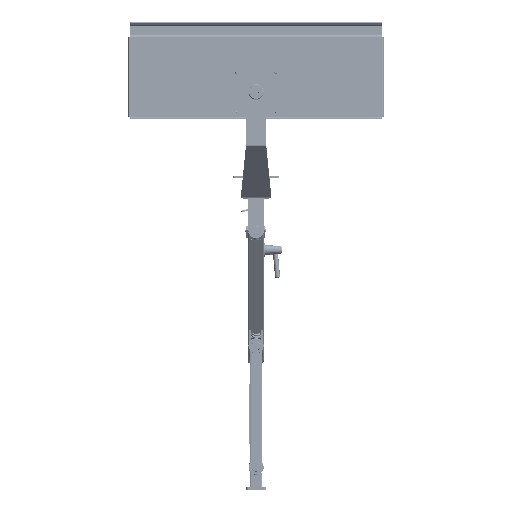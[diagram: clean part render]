
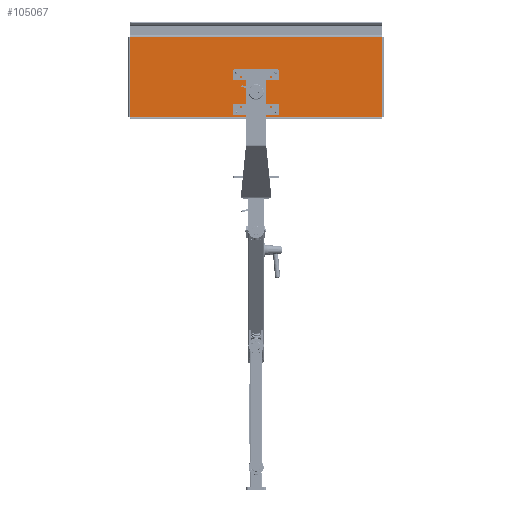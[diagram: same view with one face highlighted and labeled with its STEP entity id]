
A CAD part, front view. The second image highlights one B-rep face of the part: STEP entity #105067.
In plain terms, the highlighted planar face has unit normal (0, -1, 0.01) as drawn and (0, -1, 0) by its records, which use the part's own axes.
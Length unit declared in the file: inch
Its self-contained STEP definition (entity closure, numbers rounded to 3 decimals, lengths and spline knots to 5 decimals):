
#80 = EDGE_LOOP ( 'NONE', ( #15385, #71541, #42917, #28047 ) ) ;
#778 = DIRECTION ( 'NONE',  ( 0., -1., 0. ) ) ;
#1286 = FACE_BOUND ( 'NONE', #86463, .T. ) ;
#1329 = DIRECTION ( 'NONE',  ( 0., 0., -1. ) ) ;
#2314 = DIRECTION ( 'NONE',  ( -1., 0., 0. ) ) ;
#2507 = CARTESIAN_POINT ( 'NONE',  ( -12.5, -0.09, -4. ) ) ;
#3767 = EDGE_CURVE ( 'NONE', #27836, #45533, #8925, .T. ) ;
#4872 = DIRECTION ( 'NONE',  ( 0., 0., -1. ) ) ;
#5147 = VECTOR ( 'NONE', #16512, 39.37008 ) ;
#6794 = CIRCLE ( 'NONE', #52494, 0.09504 ) ;
#8925 = CIRCLE ( 'NONE', #10684, 0.09504 ) ;
#10481 = LINE ( 'NONE', #2507, #51456 ) ;
#10649 = CARTESIAN_POINT ( 'NONE',  ( 12.5, -0.09, -4. ) ) ;
#10684 = AXIS2_PLACEMENT_3D ( 'NONE', #43425, #66392, #75409 ) ;
#10993 = ORIENTED_EDGE ( 'NONE', *, *, #3767, .F. ) ;
#11118 = EDGE_CURVE ( 'NONE', #45533, #27836, #47773, .T. ) ;
#11990 = CARTESIAN_POINT ( 'NONE',  ( -1.9685, -0.09, -3.37346 ) ) ;
#14345 = AXIS2_PLACEMENT_3D ( 'NONE', #26266, #778, #41191 ) ;
#15385 = ORIENTED_EDGE ( 'NONE', *, *, #36848, .F. ) ;
#16261 = CARTESIAN_POINT ( 'NONE',  ( -1.9685, -0.09, -3.56354 ) ) ;
#16334 = EDGE_LOOP ( 'NONE', ( #104879, #46710 ) ) ;
#16512 = DIRECTION ( 'NONE',  ( -1., 0., 0. ) ) ;
#18033 = EDGE_CURVE ( 'NONE', #94015, #72131, #33416, .T. ) ;
#19292 = CARTESIAN_POINT ( 'NONE',  ( 12.5, -0.09, 3.968 ) ) ;
#19798 = LINE ( 'NONE', #19292, #71239 ) ;
#19936 = CARTESIAN_POINT ( 'NONE',  ( 1.9685, -0.09, 0.37346 ) ) ;
#19951 = LINE ( 'NONE', #27451, #105362 ) ;
#19957 = CARTESIAN_POINT ( 'NONE',  ( -12.5, -0.09, 3.968 ) ) ;
#24745 = DIRECTION ( 'NONE',  ( 0., -1., 0. ) ) ;
#25283 = EDGE_LOOP ( 'NONE', ( #93358, #60091 ) ) ;
#25422 = CARTESIAN_POINT ( 'NONE',  ( -1.9685, -0.09, 0.56354 ) ) ;
#25730 = VERTEX_POINT ( 'NONE', #19936 ) ;
#26206 = CARTESIAN_POINT ( 'NONE',  ( -12.5, -0.09, -4. ) ) ;
#26266 = CARTESIAN_POINT ( 'NONE',  ( 0., -0.09, 0. ) ) ;
#27451 = CARTESIAN_POINT ( 'NONE',  ( 12.5, -0.09, -4. ) ) ;
#27836 = VERTEX_POINT ( 'NONE', #11990 ) ;
#28047 = ORIENTED_EDGE ( 'NONE', *, *, #56973, .F. ) ;
#29290 = VERTEX_POINT ( 'NONE', #25422 ) ;
#29720 = CARTESIAN_POINT ( 'NONE',  ( 12.5, -0.09, 3.968 ) ) ;
#31681 = ORIENTED_EDGE ( 'NONE', *, *, #11118, .F. ) ;
#32481 = EDGE_CURVE ( 'NONE', #66399, #104739, #19798, .T. ) ;
#33216 = FACE_BOUND ( 'NONE', #25283, .T. ) ;
#33416 = CIRCLE ( 'NONE', #82698, 0.09504 ) ;
#35676 = CARTESIAN_POINT ( 'NONE',  ( 1.9685, -0.09, -3.4685 ) ) ;
#35825 = AXIS2_PLACEMENT_3D ( 'NONE', #98372, #67969, #89797 ) ;
#36296 = DIRECTION ( 'NONE',  ( 0., -1., 0. ) ) ;
#36725 = DIRECTION ( 'NONE',  ( 0., 0., -1. ) ) ;
#36805 = CARTESIAN_POINT ( 'NONE',  ( 1.9685, -0.09, 0.4685 ) ) ;
#36848 = EDGE_CURVE ( 'NONE', #66399, #45150, #19951, .T. ) ;
#37061 = CIRCLE ( 'NONE', #59140, 0.09504 ) ;
#40268 = CARTESIAN_POINT ( 'NONE',  ( 1.9685, -0.09, 0.4685 ) ) ;
#40448 = CARTESIAN_POINT ( 'NONE',  ( 1.9685, -0.09, -3.37346 ) ) ;
#41191 = DIRECTION ( 'NONE',  ( 0., 0., -1. ) ) ;
#41718 = FACE_BOUND ( 'NONE', #76280, .T. ) ;
#41898 = CARTESIAN_POINT ( 'NONE',  ( -1.9685, -0.09, 0.4685 ) ) ;
#42240 = FACE_OUTER_BOUND ( 'NONE', #80, .T. ) ;
#42917 = ORIENTED_EDGE ( 'NONE', *, *, #101823, .F. ) ;
#43425 = CARTESIAN_POINT ( 'NONE',  ( -1.9685, -0.09, -3.4685 ) ) ;
#45150 = VERTEX_POINT ( 'NONE', #90459 ) ;
#45533 = VERTEX_POINT ( 'NONE', #16261 ) ;
#45721 = ORIENTED_EDGE ( 'NONE', *, *, #95413, .F. ) ;
#46309 = CIRCLE ( 'NONE', #70228, 0.09504 ) ;
#46710 = ORIENTED_EDGE ( 'NONE', *, *, #53563, .F. ) ;
#47773 = CIRCLE ( 'NONE', #35825, 0.09504 ) ;
#48097 = DIRECTION ( 'NONE',  ( 0., 0., -1. ) ) ;
#49133 = CARTESIAN_POINT ( 'NONE',  ( -1.9685, -0.09, 0.4685 ) ) ;
#51456 = VECTOR ( 'NONE', #61051, 39.37008 ) ;
#52494 = AXIS2_PLACEMENT_3D ( 'NONE', #49133, #80069, #48097 ) ;
#52569 = EDGE_CURVE ( 'NONE', #99794, #25730, #84594, .T. ) ;
#53563 = EDGE_CURVE ( 'NONE', #25730, #99794, #37061, .T. ) ;
#56973 = EDGE_CURVE ( 'NONE', #45150, #77763, #91589, .T. ) ;
#59140 = AXIS2_PLACEMENT_3D ( 'NONE', #36805, #36296, #4872 ) ;
#59969 = DIRECTION ( 'NONE',  ( 0., 0., -1. ) ) ;
#60091 = ORIENTED_EDGE ( 'NONE', *, *, #18033, .F. ) ;
#60211 = DIRECTION ( 'NONE',  ( 0., -1., 0. ) ) ;
#60538 = CARTESIAN_POINT ( 'NONE',  ( -1.9685, -0.09, 0.37346 ) ) ;
#61051 = DIRECTION ( 'NONE',  ( 0., 0., 1. ) ) ;
#61714 = CARTESIAN_POINT ( 'NONE',  ( 1.9685, -0.09, -3.56354 ) ) ;
#64914 = EDGE_CURVE ( 'NONE', #72131, #94015, #46309, .T. ) ;
#66392 = DIRECTION ( 'NONE',  ( 0., -1., 0. ) ) ;
#66399 = VERTEX_POINT ( 'NONE', #29720 ) ;
#67969 = DIRECTION ( 'NONE',  ( 0., -1., 0. ) ) ;
#70228 = AXIS2_PLACEMENT_3D ( 'NONE', #89216, #24745, #1329 ) ;
#71239 = VECTOR ( 'NONE', #2314, 39.37008 ) ;
#71541 = ORIENTED_EDGE ( 'NONE', *, *, #32481, .T. ) ;
#72131 = VERTEX_POINT ( 'NONE', #40448 ) ;
#72276 = DIRECTION ( 'NONE',  ( 0., 0., -1. ) ) ;
#73232 = CIRCLE ( 'NONE', #78376, 0.09504 ) ;
#73984 = EDGE_CURVE ( 'NONE', #29290, #96282, #6794, .T. ) ;
#74241 = FACE_BOUND ( 'NONE', #16334, .T. ) ;
#74411 = DIRECTION ( 'NONE',  ( 0., -1., 0. ) ) ;
#75409 = DIRECTION ( 'NONE',  ( 0., 0., -1. ) ) ;
#76280 = EDGE_LOOP ( 'NONE', ( #10993, #31681 ) ) ;
#77763 = VERTEX_POINT ( 'NONE', #26206 ) ;
#78376 = AXIS2_PLACEMENT_3D ( 'NONE', #41898, #74411, #97376 ) ;
#80069 = DIRECTION ( 'NONE',  ( 0., -1., 0. ) ) ;
#82698 = AXIS2_PLACEMENT_3D ( 'NONE', #35676, #60211, #36725 ) ;
#82851 = AXIS2_PLACEMENT_3D ( 'NONE', #40268, #87708, #72276 ) ;
#84594 = CIRCLE ( 'NONE', #82851, 0.09504 ) ;
#86463 = EDGE_LOOP ( 'NONE', ( #98627, #45721 ) ) ;
#87708 = DIRECTION ( 'NONE',  ( 0., -1., 0. ) ) ;
#89216 = CARTESIAN_POINT ( 'NONE',  ( 1.9685, -0.09, -3.4685 ) ) ;
#89672 = PLANE ( 'NONE',  #14345 ) ;
#89797 = DIRECTION ( 'NONE',  ( 0., 0., -1. ) ) ;
#90459 = CARTESIAN_POINT ( 'NONE',  ( 12.5, -0.09, -4. ) ) ;
#91589 = LINE ( 'NONE', #10649, #5147 ) ;
#93358 = ORIENTED_EDGE ( 'NONE', *, *, #64914, .F. ) ;
#94015 = VERTEX_POINT ( 'NONE', #61714 ) ;
#95413 = EDGE_CURVE ( 'NONE', #96282, #29290, #73232, .T. ) ;
#96282 = VERTEX_POINT ( 'NONE', #60538 ) ;
#97376 = DIRECTION ( 'NONE',  ( 0., 0., -1. ) ) ;
#98115 = CARTESIAN_POINT ( 'NONE',  ( 1.9685, -0.09, 0.56354 ) ) ;
#98372 = CARTESIAN_POINT ( 'NONE',  ( -1.9685, -0.09, -3.4685 ) ) ;
#98627 = ORIENTED_EDGE ( 'NONE', *, *, #73984, .F. ) ;
#99794 = VERTEX_POINT ( 'NONE', #98115 ) ;
#101823 = EDGE_CURVE ( 'NONE', #77763, #104739, #10481, .T. ) ;
#104739 = VERTEX_POINT ( 'NONE', #19957 ) ;
#104879 = ORIENTED_EDGE ( 'NONE', *, *, #52569, .F. ) ;
#105067 = ADVANCED_FACE ( 'NONE', ( #41718, #33216, #74241, #1286, #42240 ), #89672, .T. ) ;
#105362 = VECTOR ( 'NONE', #59969, 39.37008 ) ;
